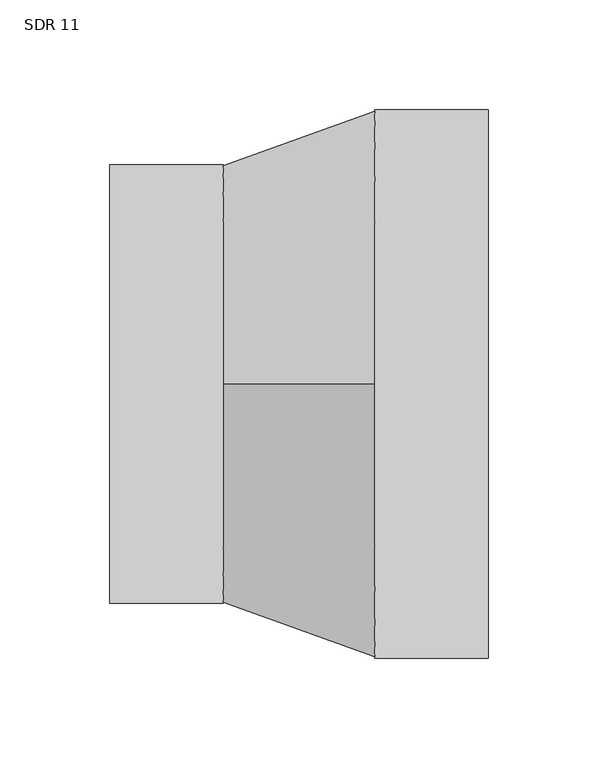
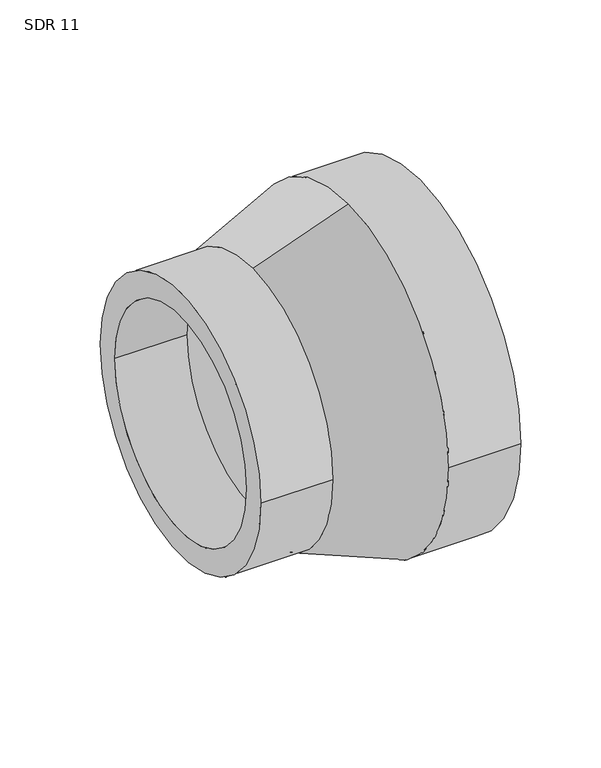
"""IFC4 building model written with IfcOpenShell, lengths in millimetres: pipe fitting geometry, Aquatherm - Reducing Coupling Combined - METRIC : SDR 11."""

from ifc_helpers import new_model, si_unit, frame, origin, place, context, project, spatial, polyline, circle_curve, source, transform, mapped, element, save
from ifc_brep_helpers import plane_surface, cylinder_surface, revolved_surface, advanced_brep


def sdr_11_eb7ade1f(model_context):
    return source(origin(), model_context, "Body", "AdvancedBrep", [
        advanced_brep(
        [(-86.233, -99.949, 0.0), (-86.233, 99.949, 0.0), (-86.233, -81.7764545, 0.0), (-86.233, 81.7764545, 0.0), (-34.4932, 81.7764545, 0.0), (-34.4932, 0.0, 81.7764545), (-34.4932, -81.7764545, 0.0), (-34.4932, 0.0, -81.7764545), (-34.4932, 99.949, 0.0), (-34.4932, 0.0, -99.949), (-34.4932, -99.949, 0.0), (-34.4932, 0.0, 99.949), (86.233, -124.968, 0.0), (86.233, 124.968, 0.0), (86.233, -102.2465455, 0.0), (86.233, 102.2465455, 0.0), (34.4932, -124.968, 0.0), (34.4932, 0.0, -124.968), (34.4932, 124.968, 0.0), (34.4932, 0.0, 124.968), (34.4932, -102.2465455, 0.0), (34.4932, 0.0, 102.2465455), (34.4932, 102.2465455, 0.0), (34.4932, 0.0, -102.2465455)],
        [
            (0, 1, circle_curve(frame((-86.233, 0.0, 0.0), z_axis=(-1.0, 0.0, 0.0), x_axis=(0.0, 1.0, 0.0)), 99.949)),
            (1, 0, circle_curve(frame((-86.233, 0.0, 0.0), z_axis=(-1.0, 0.0, 0.0), x_axis=(0.0, 1.0, 0.0)), 99.949)),
            (2, 3, circle_curve(frame((-86.233, 0.0, 0.0), z_axis=(1.0, 0.0, 0.0), x_axis=(0.0, 1.0, 0.0)), 81.7764545)),
            (3, 2, circle_curve(frame((-86.233, 0.0, 0.0), z_axis=(1.0, 0.0, 0.0), x_axis=(0.0, 1.0, 0.0)), 81.7764545)),
            (3, 4),
            (4, 5, circle_curve(frame((-34.4932, 0.0, 0.0), z_axis=(1.0, 0.0, 0.0), x_axis=(0.0, 1.0, 0.0)), 81.7764545)),
            (5, 6, circle_curve(frame((-34.4932, 0.0, 0.0), z_axis=(1.0, 0.0, 0.0), x_axis=(0.0, 1.0, 0.0)), 81.7764545)),
            (6, 2),
            (6, 7, circle_curve(frame((-34.4932, 0.0, 0.0), z_axis=(1.0, 0.0, 0.0), x_axis=(0.0, 1.0, 0.0)), 81.7764545)),
            (7, 4, circle_curve(frame((-34.4932, 0.0, 0.0), z_axis=(1.0, 0.0, 0.0), x_axis=(0.0, 1.0, 0.0)), 81.7764545)),
            (1, 8),
            (8, 9, circle_curve(frame((-34.4932, 0.0, 0.0), z_axis=(-1.0, 0.0, 0.0), x_axis=(0.0, 1.0, 0.0)), 99.949)),
            (9, 10, circle_curve(frame((-34.4932, 0.0, 0.0), z_axis=(-1.0, 0.0, 0.0), x_axis=(0.0, 1.0, 0.0)), 99.949)),
            (10, 0),
            (10, 11, circle_curve(frame((-34.4932, 0.0, 0.0), z_axis=(-1.0, 0.0, 0.0), x_axis=(0.0, 1.0, 0.0)), 99.949)),
            (11, 8, circle_curve(frame((-34.4932, 0.0, 0.0), z_axis=(-1.0, 0.0, 0.0), x_axis=(0.0, 1.0, 0.0)), 99.949)),
            (12, 13, circle_curve(frame((86.233, 0.0, 0.0), z_axis=(1.0, 0.0, 0.0), x_axis=(0.0, 1.0, 0.0)), 124.968)),
            (13, 12, circle_curve(frame((86.233, 0.0, 0.0), z_axis=(1.0, 0.0, 0.0), x_axis=(0.0, 1.0, 0.0)), 124.968)),
            (14, 15, circle_curve(frame((86.233, 0.0, 0.0), z_axis=(-1.0, 0.0, 0.0), x_axis=(0.0, 1.0, 0.0)), 102.2465455)),
            (15, 14, circle_curve(frame((86.233, 0.0, 0.0), z_axis=(-1.0, 0.0, 0.0), x_axis=(0.0, 1.0, 0.0)), 102.2465455)),
            (12, 16),
            (16, 17, circle_curve(frame((34.4932, 0.0, 0.0), z_axis=(1.0, 0.0, 0.0), x_axis=(0.0, 1.0, 0.0)), 124.968)),
            (17, 18, circle_curve(frame((34.4932, 0.0, 0.0), z_axis=(1.0, 0.0, 0.0), x_axis=(0.0, 1.0, 0.0)), 124.968)),
            (18, 13),
            (18, 19, circle_curve(frame((34.4932, 0.0, 0.0), z_axis=(1.0, 0.0, 0.0), x_axis=(0.0, 1.0, 0.0)), 124.968)),
            (19, 16, circle_curve(frame((34.4932, 0.0, 0.0), z_axis=(1.0, 0.0, 0.0), x_axis=(0.0, 1.0, 0.0)), 124.968)),
            (14, 20),
            (20, 21, circle_curve(frame((34.4932, 0.0, 0.0), z_axis=(-1.0, 0.0, 0.0), x_axis=(0.0, 1.0, 0.0)), 102.2465455)),
            (21, 22, circle_curve(frame((34.4932, 0.0, 0.0), z_axis=(-1.0, 0.0, 0.0), x_axis=(0.0, 1.0, 0.0)), 102.2465455)),
            (22, 15),
            (22, 23, circle_curve(frame((34.4932, 0.0, 0.0), z_axis=(-1.0, 0.0, 0.0), x_axis=(0.0, 1.0, 0.0)), 102.2465455)),
            (23, 20, circle_curve(frame((34.4932, 0.0, 0.0), z_axis=(-1.0, 0.0, 0.0), x_axis=(0.0, 1.0, 0.0)), 102.2465455)),
            (11, 19),
            (17, 9),
            (21, 5),
            (7, 23),
        ],
        [
            plane_surface(frame((-86.233, 81.7764545, 0.0), z_axis=(-1.0, 0.0, 0.0), x_axis=(0.0, 0.0, 1.0))),
            revolved_surface(polyline([(-86.233, 81.7764545, 0.0), (-34.4932, 81.7764545, 0.0)]), (-86.233, 0.0, 0.0), (-1.0, 0.0, 0.0)),
            cylinder_surface(frame((0.0, 0.0, 0.0), z_axis=(1.0, 0.0, 0.0), x_axis=(0.0, 1.0, 0.0)), 99.949),
            plane_surface(frame((86.233, 124.968, 0.0), z_axis=(1.0, 0.0, 0.0), x_axis=(0.0, 0.0, 1.0))),
            cylinder_surface(frame((34.4932, 0.0, 0.0), z_axis=(1.0, 0.0, 0.0), x_axis=(0.0, 1.0, 0.0)), 124.968),
            revolved_surface(polyline([(34.4932, 102.2465455, 0.0), (86.233, 102.2465455, 0.0)]), (0.0, 0.0, 0.0), (-1.0, 0.0, 0.0)),
            revolved_surface(polyline([(34.4932, 0.0, 124.968), (-34.4932, 0.0, 99.949)]), (-661.4925384, 0.0, 0.0), (-1.0, 0.0, 0.0)),
            revolved_surface(polyline([(-34.4932, 0.0, 81.7764545), (34.4932, 0.0, 102.2465455)]), (-661.4925384, 0.0, 0.0), (-1.0, 0.0, 0.0)),
        ],
        [
            (0, [[1, 2], [3, 4]]),
            (1, [[-4, 5, 6, 7, 8]]),
            (1, [[-3, -8, 9, 10, -5]]),
            (2, [[-2, 11, 12, 13, 14]]),
            (2, [[-1, -14, 15, 16, -11]]),
            (3, [[17, 18], [19, 20]]),
            (4, [[-17, 21, 22, 23, 24]]),
            (4, [[-18, -24, 25, 26, -21]]),
            (5, [[-19, 27, 28, 29, 30]]),
            (5, [[-20, -30, 31, 32, -27]]),
            (6, [[33, -25, -23, 34, -12, -16]]),
            (6, [[-33, -15, -13, -34, -22, -26]]),
            (7, [[35, -6, -10, 36, -31, -29]]),
            (7, [[-35, -28, -32, -36, -9, -7]]),
        ],
    ),
    ])


if __name__ == "__main__":
    model = new_model("IFC4")
    model_context = context("Model", 3, world=origin())
    ifc_project = project(units=[si_unit("LENGTHUNIT", "METRE", prefix="MILLI")], contexts=[model_context])
    site = spatial("IfcSite", under=ifc_project)
    building = spatial("IfcBuilding", under=site)
    placement = place(None, origin())
    sdr_11_shape = sdr_11_eb7ade1f(model_context)
    element("IfcPipeFitting", 1, ObjectType="Aquatherm - Reducing Coupling Combined - METRIC : SDR 11", at=placement, inside=building, context=model_context, shape_type="MappedRepresentation", body=[
        mapped(sdr_11_shape, transform((0.0, 0.0, 0.0), x_axis=(1.0, 0.0, 0.0), y_axis=(0.0, 1.0, 0.0), z_axis=(0.0, 0.0, 1.0))),
    ])
    save(model, "model.ifc")
